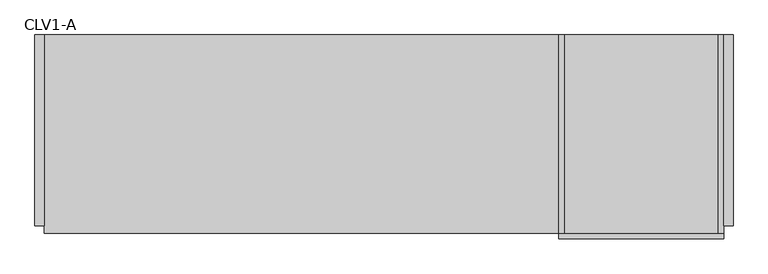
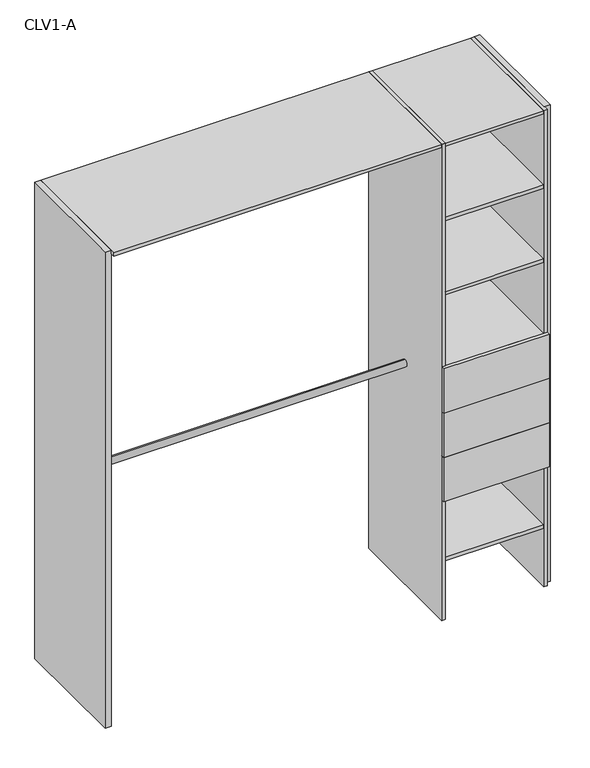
"""IFC4 building model written with IfcOpenShell, lengths in millimetres: furniture geometry, Closet 1estantes-1tubos_2 laterales : CLV1-A."""

from ifc_helpers import new_model, si_unit, point, frame, frame_2d, origin, origin_with_axes, place, context, project, spatial, polyline, circle_curve, trimmed, segment, composite_curve, outline, extrude, source, transform, mapped, element, save


def clv1_a_2b6385e6(model_context):
    return source(origin(), model_context, "Body", "SweptSolid", [
        extrude(outline(polyline([(-1625.2516668, 80.0), (-1650.2516668, 80.0), (-1650.2516668, 600.0), (-1625.2516668, 600.0), (-1625.2516668, 80.0)])), origin_with_axes(), (0.0, 0.0, 1.0), 2150.0),
        extrude(outline(polyline([(250.0, 80.0), (225.0, 80.0), (225.0, 600.0), (250.0, 600.0), (250.0, 80.0)])), origin_with_axes(), (0.0, 0.0, 1.0), 2150.0),
        extrude(outline(polyline([(225.0, 60.0), (210.0, 60.0), (210.0, 600.0), (225.0, 600.0), (225.0, 60.0)])), origin_with_axes(), (0.0, 0.0, 1.0), 2150.0),
        extrude(outline(polyline([(-210.0, 60.0), (-225.0, 60.0), (-225.0, 600.0), (-210.0, 600.0), (-210.0, 60.0)])), origin_with_axes(), (0.0, 0.0, 1.0), 2150.0),
        extrude(outline(polyline([(225.0, 60.0), (225.0, 45.0), (-225.0, 45.0), (-225.0, 60.0), (225.0, 60.0)])), frame((0.0, 0.0, 945.0), z_axis=(0.0, 0.0, 1.0), x_axis=(1.0, 0.0, 0.0)), (0.0, 0.0, 1.0), 200.0),
        extrude(outline(polyline([(225.0, 60.0), (225.0, 45.0), (-225.0, 45.0), (-225.0, 60.0), (225.0, 60.0)])), frame((0.0, 0.0, 745.0), z_axis=(0.0, 0.0, 1.0), x_axis=(1.0, 0.0, 0.0)), (0.0, 0.0, 1.0), 200.0),
        extrude(outline(polyline([(225.0, 60.0), (225.0, 45.0), (-225.0, 45.0), (-225.0, 60.0), (225.0, 60.0)])), frame((0.0, 0.0, 545.0), z_axis=(0.0, 0.0, 1.0), x_axis=(1.0, 0.0, 0.0)), (0.0, 0.0, 1.0), 200.0),
        extrude(outline(polyline([(210.0, 60.0), (-210.0, 60.0), (-210.0, 600.0), (210.0, 600.0), (210.0, 60.0)])), frame((0.0, 0.0, 1130.0), z_axis=(0.0, 0.0, 1.0), x_axis=(1.0, 0.0, 0.0)), (0.0, 0.0, 1.0), 15.0),
        extrude(outline(composite_curve([segment(trimmed(circle_curve(frame_2d((330.0, 2000.0)), 15.0), [point((330.0, 2015.0))], [point((330.0, 1985.0))], False, "CARTESIAN"), True, "CONTINUOUS"), segment(trimmed(circle_curve(frame_2d((330.0, 2000.0)), 15.0), [point((330.0, 1985.0))], [point((330.0, 2015.0))], False, "CARTESIAN"), True, "CONTINUOUS")], self_intersect=False)), frame((-1625.2516668, 0.0, 0.0), z_axis=(1.0, 0.0, 0.0), x_axis=(0.0, 1.0, 0.0)), (0.0, 0.0, 1.0), 1400.2516668),
        extrude(outline(composite_curve([segment(trimmed(circle_curve(frame_2d((330.0, 1000.0)), 15.0), [point((330.0, 1015.0))], [point((330.0, 985.0))], False, "CARTESIAN"), True, "CONTINUOUS"), segment(trimmed(circle_curve(frame_2d((330.0, 1000.0)), 15.0), [point((330.0, 985.0))], [point((330.0, 1015.0))], False, "CARTESIAN"), True, "CONTINUOUS")], self_intersect=False)), frame((-1625.2516668, 0.0, 0.0), z_axis=(1.0, 0.0, 0.0), x_axis=(0.0, 1.0, 0.0)), (0.0, 0.0, 1.0), 1400.2516668),
        extrude(outline(polyline([(210.0, 60.0), (-210.0, 60.0), (-210.0, 600.0), (210.0, 600.0), (210.0, 60.0)])), frame((0.0, 0.0, 265.0), z_axis=(0.0, 0.0, 1.0), x_axis=(1.0, 0.0, 0.0)), (0.0, 0.0, 1.0), 15.0),
        extrude(outline(polyline([(210.0, 60.0), (-210.0, 60.0), (-210.0, 600.0), (210.0, 600.0), (210.0, 60.0)])), frame((0.0, 0.0, 545.0), z_axis=(0.0, 0.0, 1.0), x_axis=(1.0, 0.0, 0.0)), (0.0, 0.0, 1.0), 15.0),
        extrude(outline(polyline([(210.0, 60.0), (-210.0, 60.0), (-210.0, 600.0), (210.0, 600.0), (210.0, 60.0)])), frame((0.0, 0.0, 1465.0), z_axis=(0.0, 0.0, 1.0), x_axis=(1.0, 0.0, 0.0)), (0.0, 0.0, 1.0), 15.0),
        extrude(outline(polyline([(210.0, 60.0), (-210.0, 60.0), (-210.0, 600.0), (210.0, 600.0), (210.0, 60.0)])), frame((0.0, 0.0, 1800.0), z_axis=(0.0, 0.0, 1.0), x_axis=(1.0, 0.0, 0.0)), (0.0, 0.0, 1.0), 15.0),
        extrude(outline(polyline([(-210.0, 60.0), (-1625.2516668, 60.0), (-1625.2516668, 600.0), (-210.0, 600.0), (-210.0, 60.0)])), frame((0.0, 0.0, 2135.0), z_axis=(0.0, 0.0, 1.0), x_axis=(1.0, 0.0, 0.0)), (0.0, 0.0, 1.0), 15.0),
        extrude(outline(polyline([(210.0, 60.0), (-210.0, 60.0), (-210.0, 600.0), (210.0, 600.0), (210.0, 60.0)])), frame((0.0, 0.0, 2135.0), z_axis=(0.0, 0.0, 1.0), x_axis=(1.0, 0.0, 0.0)), (0.0, 0.0, 1.0), 15.0),
    ])


if __name__ == "__main__":
    model = new_model("IFC4")
    model_context = context("Model", 3, world=origin())
    ifc_project = project(units=[si_unit("LENGTHUNIT", "METRE", prefix="MILLI")], contexts=[model_context])
    site = spatial("IfcSite", under=ifc_project)
    building = spatial("IfcBuilding", under=site)
    placement = place(None, origin())
    clv1_a_shape = clv1_a_2b6385e6(model_context)
    element("IfcFurniture", 1, ObjectType="Closet 1estantes-1tubos_2 laterales : CLV1-A", at=placement, inside=building, context=model_context, shape_type="MappedRepresentation", body=[
        mapped(clv1_a_shape, transform((0.0, 0.0, 0.0), x_axis=(1.0, 0.0, 0.0), y_axis=(0.0, 1.0, 0.0), z_axis=(0.0, 0.0, 1.0))),
    ])
    save(model, "model.ifc")
